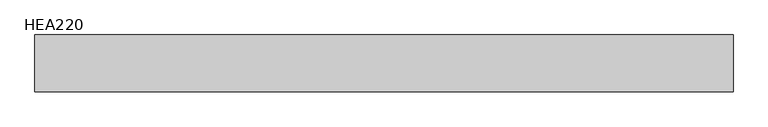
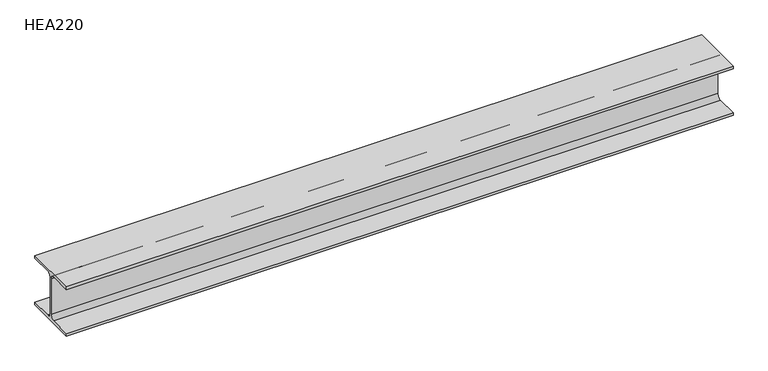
"""IFC4 building model written with IfcOpenShell, lengths in millimetres: beam geometry, HE-A : HEA220."""

from ifc_helpers import new_model, si_unit, point, frame, frame_2d, origin, place, context, project, spatial, polyline, circle_curve, trimmed, segment, composite_curve, outline, extrude, source, transform, mapped, element, save


def hea220_834636a7(model_context):
    return source(origin(), model_context, "Body", "SweptSolid", [
        extrude(outline(composite_curve([segment(polyline([(110.0, -94.0), (110.0, -105.0), (-110.0, -105.0), (-110.0, -94.0), (-21.5, -94.0)]), True, "CONTINUOUS"), segment(trimmed(circle_curve(frame_2d((-21.5, -76.0)), 18.0), [point((-21.5, -94.0))], [point((-3.5, -76.0))], True, "CARTESIAN"), True, "CONTINUOUS"), segment(polyline([(-3.5, -76.0), (-3.5, 76.0)]), True, "CONTINUOUS"), segment(trimmed(circle_curve(frame_2d((-21.5, 76.0)), 18.0), [point((-3.5, 76.0))], [point((-21.5, 94.0))], True, "CARTESIAN"), True, "CONTINUOUS"), segment(polyline([(-21.5, 94.0), (-110.0, 94.0), (-110.0, 105.0), (110.0, 105.0), (110.0, 94.0), (21.5, 94.0)]), True, "CONTINUOUS"), segment(trimmed(circle_curve(frame_2d((21.5, 76.0)), 18.0), [point((21.5, 94.0))], [point((3.5, 76.0))], True, "CARTESIAN"), True, "CONTINUOUS"), segment(polyline([(3.5, 76.0), (3.5, -76.0)]), True, "CONTINUOUS"), segment(trimmed(circle_curve(frame_2d((21.5, -76.0)), 18.0), [point((3.5, -76.0))], [point((21.5, -94.0))], True, "CARTESIAN"), True, "CONTINUOUS"), segment(polyline([(21.5, -94.0), (110.0, -94.0)]), True, "CONTINUOUS")], self_intersect=False)), frame((-1347.15, 0.0, 0.0), z_axis=(1.0, 0.0, 0.0), x_axis=(0.0, 1.0, 0.0)), (0.0, 0.0, 1.0), 2694.3),
    ])


if __name__ == "__main__":
    model = new_model("IFC4")
    model_context = context("Model", 3, world=origin())
    ifc_project = project(units=[si_unit("LENGTHUNIT", "METRE", prefix="MILLI")], contexts=[model_context])
    site = spatial("IfcSite", under=ifc_project)
    building = spatial("IfcBuilding", under=site)
    placement = place(None, origin())
    hea220_shape = hea220_834636a7(model_context)
    element("IfcBeam", 1, ObjectType="HE-A : HEA220", at=placement, inside=building, context=model_context, shape_type="MappedRepresentation", body=[
        mapped(hea220_shape, transform((0.0, 0.0, 0.0), x_axis=(1.0, 0.0, 0.0), y_axis=(0.0, 1.0, 0.0), z_axis=(0.0, 0.0, 1.0))),
    ])
    save(model, "model.ifc")
